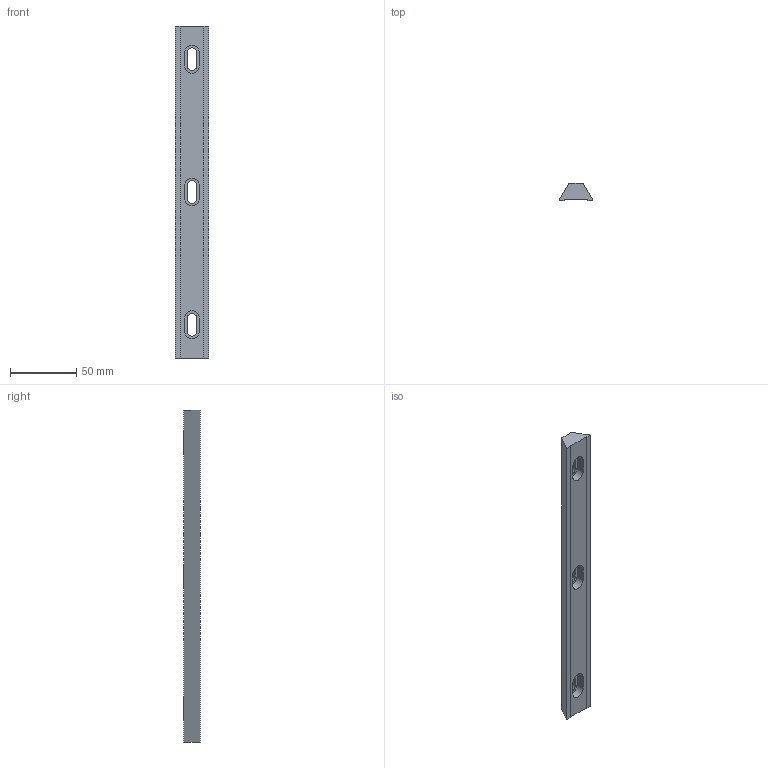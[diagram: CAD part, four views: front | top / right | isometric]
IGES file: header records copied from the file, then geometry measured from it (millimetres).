
Start section:  PTC IGES file: EOB01X.igs
Global section: file name: EOB01X.igs; native system: Pro/ENGINEER by Parametric Technology Corporation; preprocessor: 2006460; author: Owner; organization: Unknown; date: 20130731.161050; units: millimetre
Bounding box: 25 x 12.5 x 250 mm (x, y, z)
Surface area: 17890.8 mm2 (no closed solid volume)
Topology: 0 solids, 0 shells, 37 faces, 192 edges, 192 vertices
Faces by surface type: bspline 25, revolution 12
